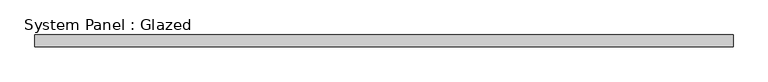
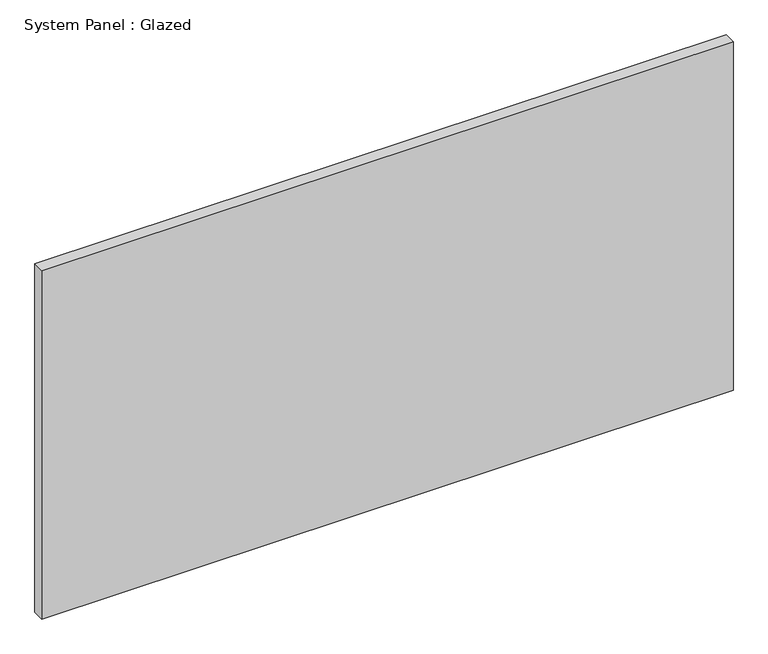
"""IFC4 building model written with IfcOpenShell, lengths in millimetres: plate geometry, System Panel : Glazed."""

from ifc_helpers import new_model, si_unit, origin, origin_with_axes, place, context, project, spatial, polyline, outline, extrude, source, transform, mapped, element, save


def system_panel_glazed_350533b4(model_context):
    return source(origin(), model_context, "Body", "SweptSolid", [
        extrude(outline(polyline([(741.40625, 24.5), (-741.40625, 24.5), (-741.40625, 49.5), (741.40625, 49.5), (741.40625, 24.5)])), origin_with_axes(), (0.0, 0.0, 1.0), 790.0),
    ])


if __name__ == "__main__":
    model = new_model("IFC4")
    model_context = context("Model", 3, world=origin())
    ifc_project = project(units=[si_unit("LENGTHUNIT", "METRE", prefix="MILLI")], contexts=[model_context])
    site = spatial("IfcSite", under=ifc_project)
    building = spatial("IfcBuilding", under=site)
    placement = place(None, origin())
    system_panel_glazed_shape = system_panel_glazed_350533b4(model_context)
    element("IfcPlate", 1, ObjectType="System Panel : Glazed", at=placement, inside=building, context=model_context, shape_type="MappedRepresentation", body=[
        mapped(system_panel_glazed_shape, transform((0.0, 0.0, 0.0), x_axis=(1.0, 0.0, 0.0), y_axis=(0.0, 1.0, 0.0), z_axis=(0.0, 0.0, 1.0))),
    ])
    save(model, "model.ifc")
